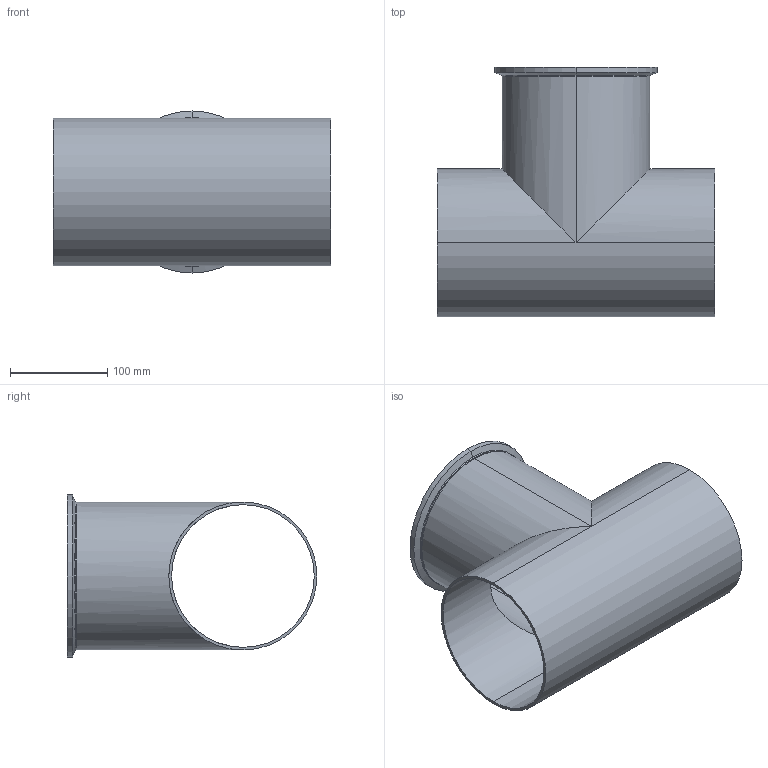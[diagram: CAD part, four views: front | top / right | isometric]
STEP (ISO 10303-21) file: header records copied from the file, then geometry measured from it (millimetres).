
FILE_DESCRIPTION (( 'STEP AP214' ), '1' );
FILE_NAME ('TE7WWC6L6.0-...STEP', '2016-05-23T05:56:09', ( 'eran' ), ( '' ), 'SwSTEP 2.0', 'SolidWorks 2016', '' );
FILE_SCHEMA (( 'AUTOMOTIVE_DESIGN' ));
Length unit declared in the file: millimetre
Products named in the file (1): TE7WWC6L6.0-..
Bounding box: 285.8 x 257.2 x 166.88 mm (x, y, z)
Volume: 508123.5 mm3; surface area: 362368.7 mm2
Topology: 2 solids, 2 shells, 38 faces, 92 edges, 58 vertices
Faces by surface type: cylinder 16, bspline 10, plane 6, cone 6
Entity records: 2264 total; most frequent: CARTESIAN_POINT 1329, DIRECTION 198, ORIENTED_EDGE 184, EDGE_CURVE 92, AXIS2_PLACEMENT_3D 87, CIRCLE 58, VERTEX_POINT 58, EDGE_LOOP 44
